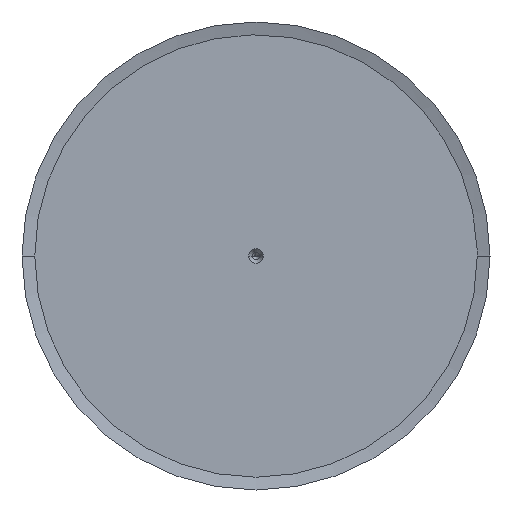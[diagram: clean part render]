
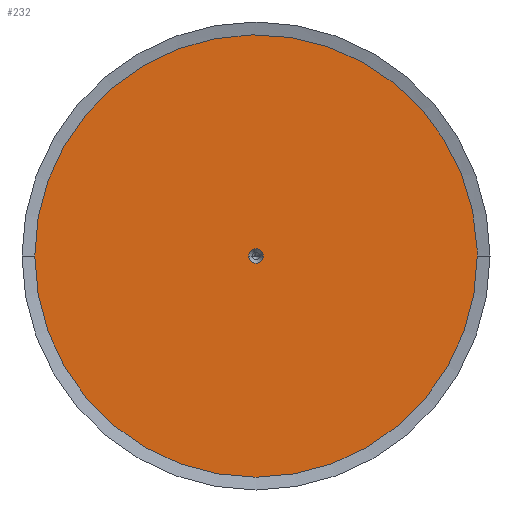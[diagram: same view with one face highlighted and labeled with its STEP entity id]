
A CAD part, left-side view. The second image highlights one B-rep face of the part: STEP entity #232.
In plain terms, the highlighted planar face has unit normal (-1, 0, 0).
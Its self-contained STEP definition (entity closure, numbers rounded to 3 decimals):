
#232=ADVANCED_FACE('',(#619,#620),#621,.T.);
#619=FACE_BOUND('',#1076,.T.);
#620=FACE_OUTER_BOUND('',#1077,.T.);
#621=PLANE('',#1078);
#1076=EDGE_LOOP('',(#2657,#2658));
#1077=EDGE_LOOP('',(#2659,#2660,#2661));
#1078=AXIS2_PLACEMENT_3D('',#2662,#2663,#2664);
#2657=ORIENTED_EDGE('',*,*,#3359,.T.);
#2658=ORIENTED_EDGE('',*,*,#3372,.T.);
#2659=ORIENTED_EDGE('',*,*,#3788,.F.);
#2660=ORIENTED_EDGE('',*,*,#3787,.F.);
#2661=ORIENTED_EDGE('',*,*,#3213,.F.);
#2662=CARTESIAN_POINT('',(0.0,0.0,0.0));
#2663=DIRECTION('',(-1.0,0.0,0.0));
#2664=DIRECTION('',(0.0,0.0,1.0));
#3213=EDGE_CURVE('',#3871,#3868,#3873,.T.);
#3359=EDGE_CURVE('',#4153,#4155,#4157,.T.);
#3372=EDGE_CURVE('',#4155,#4153,#4177,.T.);
#3787=EDGE_CURVE('',#3868,#4871,#4872,.T.);
#3788=EDGE_CURVE('',#4871,#3871,#4873,.T.);
#3868=VERTEX_POINT('',#4956);
#3871=VERTEX_POINT('',#4960);
#3873=CIRCLE('',#4963,60.5);
#4153=VERTEX_POINT('',#5651);
#4155=VERTEX_POINT('',#5654);
#4157=CIRCLE('',#5657,2.0);
#4177=CIRCLE('',#5683,2.0);
#4871=VERTEX_POINT('',#6840);
#4872=CIRCLE('',#6841,60.5);
#4873=CIRCLE('',#6842,60.5);
#4956=CARTESIAN_POINT('',(0.0,60.5,0.));
#4960=CARTESIAN_POINT('',(0.0,-60.5,0.));
#4963=AXIS2_PLACEMENT_3D('',#6997,#6998,#6999);
#5651=CARTESIAN_POINT('',(0.0,2.0,0.0));
#5654=CARTESIAN_POINT('',(0.0,-2.0,0.));
#5657=AXIS2_PLACEMENT_3D('',#7231,#7232,#7233);
#5683=AXIS2_PLACEMENT_3D('',#7258,#7259,#7260);
#6840=CARTESIAN_POINT('',(0.0,-60.467,1.997));
#6841=AXIS2_PLACEMENT_3D('',#8193,#8194,#8195);
#6842=AXIS2_PLACEMENT_3D('',#8196,#8197,#8198);
#6997=CARTESIAN_POINT('',(0.0,0.0,0.0));
#6998=DIRECTION('',(1.0,0.0,0.0));
#6999=DIRECTION('',(0.0,1.0,0.0));
#7231=CARTESIAN_POINT('',(0.0,0.0,0.0));
#7232=DIRECTION('',(1.0,0.0,0.0));
#7233=DIRECTION('',(0.0,1.0,0.0));
#7258=CARTESIAN_POINT('',(0.0,0.0,0.0));
#7259=DIRECTION('',(1.0,0.0,0.0));
#7260=DIRECTION('',(0.0,1.0,0.0));
#8193=CARTESIAN_POINT('',(0.0,0.0,0.0));
#8194=DIRECTION('',(1.0,0.0,0.0));
#8195=DIRECTION('',(0.0,1.0,0.0));
#8196=CARTESIAN_POINT('',(0.0,0.0,0.0));
#8197=DIRECTION('',(1.0,0.0,0.0));
#8198=DIRECTION('',(0.0,1.0,0.0));
